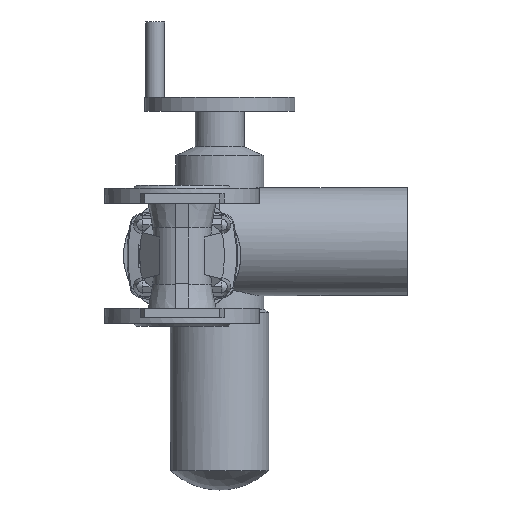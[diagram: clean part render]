
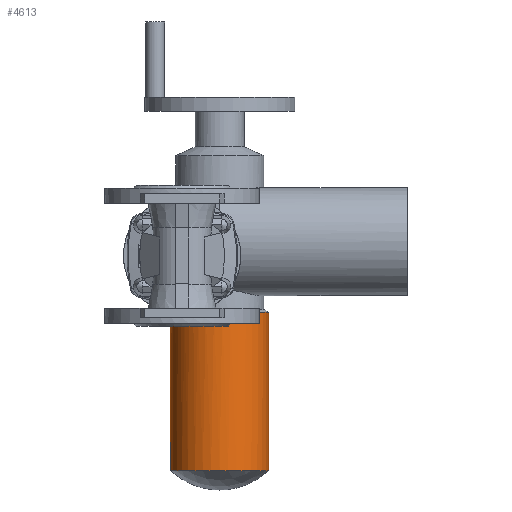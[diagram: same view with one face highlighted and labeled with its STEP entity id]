
A CAD part, front view. The second image highlights one B-rep face of the part: STEP entity #4613.
In plain terms, the highlighted cylindrical face has radius 52.5 mm (diameter 105 mm), a full revolution.
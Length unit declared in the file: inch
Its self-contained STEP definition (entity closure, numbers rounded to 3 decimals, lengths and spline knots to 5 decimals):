
#263 = EDGE_LOOP ( 'NONE', ( #8693 ) ) ;
#344 = B_SPLINE_CURVE_WITH_KNOTS ( 'NONE', 3,
 ( #1230, #1229, #1211, #1231, #1232, #1233, #1234, #1235, #1236, #1237, #1238, #1239, #1240, #1241, #1242, #1243, #1244, #1245, #1246, #1247, #1248, #1249, #1250, #1251, #1252, #1253, #1254, #1255, #1256, #1257, #1258, #1259, #1260, #1261, #1262, #1263, #1264, #1265, #1266, #1267, #1268, #1269, #1270, #1271, #1272, #1273, #1274, #1275, #1276, #1277 ),
 .UNSPECIFIED., .F., .F.,
 ( 4, 2, 2, 2, 2, 2, 2, 2, 2, 2, 2, 2, 2, 2, 2, 2, 2, 2, 2, 2, 2, 2, 2, 2, 4 ),
 ( 0.13161, 0.13526, 0.13891, 0.14621, 0.14987, 0.15352, 0.16082, 0.16447, 0.16812, 0.17543, 0.17908, 0.1809, 0.18273, 0.19003, 0.19734, 0.20464, 0.21194, 0.21377, 0.2156, 0.21925, 0.22655, 0.2302, 0.23385, 0.24116, 0.24846 ),
 .UNSPECIFIED. ) ;
#1211 = CARTESIAN_POINT ( 'NONE',  ( 0.58486, 9.77942, -2.39049 ) ) ;
#1214 = CARTESIAN_POINT ( 'NONE',  ( 1.5748, 11.59449, -9.01387 ) ) ;
#1215 = DIRECTION ( 'NONE',  ( 0., 0., 1. ) ) ;
#1216 = DIRECTION ( 'NONE',  ( 1., 0., 0. ) ) ;
#1229 = CARTESIAN_POINT ( 'NONE',  ( 0.62708, 9.75704, -2.37979 ) ) ;
#1230 = CARTESIAN_POINT ( 'NONE',  ( 0.66926, 9.73648, -2.36787 ) ) ;
#1231 = CARTESIAN_POINT ( 'NONE',  ( 0.5023, 9.82695, -2.40919 ) ) ;
#1232 = CARTESIAN_POINT ( 'NONE',  ( 0.46185, 9.85213, -2.41723 ) ) ;
#1233 = CARTESIAN_POINT ( 'NONE',  ( 0.34306, 9.93193, -2.43792 ) ) ;
#1234 = CARTESIAN_POINT ( 'NONE',  ( 0.26727, 9.99076, -2.44714 ) ) ;
#1235 = CARTESIAN_POINT ( 'NONE',  ( 0.15912, 10.08771, -2.45575 ) ) ;
#1236 = CARTESIAN_POINT ( 'NONE',  ( 0.1239, 10.12159, -2.45774 ) ) ;
#1237 = CARTESIAN_POINT ( 'NONE',  ( 0.05644, 10.19124, -2.46021 ) ) ;
#1238 = CARTESIAN_POINT ( 'NONE',  ( 0.02406, 10.22711, -2.46071 ) ) ;
#1239 = CARTESIAN_POINT ( 'NONE',  ( -0.06907, 10.33783, -2.46044 ) ) ;
#1240 = CARTESIAN_POINT ( 'NONE',  ( -0.12584, 10.41577, -2.45795 ) ) ;
#1241 = CARTESIAN_POINT ( 'NONE',  ( -0.20293, 10.53893, -2.45238 ) ) ;
#1242 = CARTESIAN_POINT ( 'NONE',  ( -0.22735, 10.58119, -2.45021 ) ) ;
#1243 = CARTESIAN_POINT ( 'NONE',  ( -0.27285, 10.66674, -2.44556 ) ) ;
#1244 = CARTESIAN_POINT ( 'NONE',  ( -0.29399, 10.71011, -2.44308 ) ) ;
#1245 = CARTESIAN_POINT ( 'NONE',  ( -0.35268, 10.84199, -2.43554 ) ) ;
#1246 = CARTESIAN_POINT ( 'NONE',  ( -0.38554, 10.93226, -2.43039 ) ) ;
#1247 = CARTESIAN_POINT ( 'NONE',  ( -0.42538, 11.07123, -2.42362 ) ) ;
#1248 = CARTESIAN_POINT ( 'NONE',  ( -0.43708, 11.11816, -2.42152 ) ) ;
#1249 = CARTESIAN_POINT ( 'NONE',  ( -0.4522, 11.18948, -2.41873 ) ) ;
#1250 = CARTESIAN_POINT ( 'NONE',  ( -0.45684, 11.2134, -2.41785 ) ) ;
#1251 = CARTESIAN_POINT ( 'NONE',  ( -0.46522, 11.26118, -2.41626 ) ) ;
#1252 = CARTESIAN_POINT ( 'NONE',  ( -0.46898, 11.28509, -2.41553 ) ) ;
#1253 = CARTESIAN_POINT ( 'NONE',  ( -0.48566, 11.40467, -2.41227 ) ) ;
#1254 = CARTESIAN_POINT ( 'NONE',  ( -0.49222, 11.50053, -2.4109 ) ) ;
#1255 = CARTESIAN_POINT ( 'NONE',  ( -0.49203, 11.69265, -2.41094 ) ) ;
#1256 = CARTESIAN_POINT ( 'NONE',  ( -0.48526, 11.78894, -2.41235 ) ) ;
#1257 = CARTESIAN_POINT ( 'NONE',  ( -0.45785, 11.98181, -2.4177 ) ) ;
#1258 = CARTESIAN_POINT ( 'NONE',  ( -0.43753, 12.0761, -2.42157 ) ) ;
#1259 = CARTESIAN_POINT ( 'NONE',  ( -0.3842, 12.26061, -2.4306 ) ) ;
#1260 = CARTESIAN_POINT ( 'NONE',  ( -0.35119, 12.35084, -2.43576 ) ) ;
#1261 = CARTESIAN_POINT ( 'NONE',  ( -0.30185, 12.46107, -2.44207 ) ) ;
#1262 = CARTESIAN_POINT ( 'NONE',  ( -0.29157, 12.48299, -2.44332 ) ) ;
#1263 = CARTESIAN_POINT ( 'NONE',  ( -0.2702, 12.52656, -2.44577 ) ) ;
#1264 = CARTESIAN_POINT ( 'NONE',  ( -0.25908, 12.54824, -2.44698 ) ) ;
#1265 = CARTESIAN_POINT ( 'NONE',  ( -0.22475, 12.6124, -2.45045 ) ) ;
#1266 = CARTESIAN_POINT ( 'NONE',  ( -0.20049, 12.65414, -2.45258 ) ) ;
#1267 = CARTESIAN_POINT ( 'NONE',  ( -0.12362, 12.77636, -2.45806 ) ) ;
#1268 = CARTESIAN_POINT ( 'NONE',  ( -0.06698, 12.85385, -2.4605 ) ) ;
#1269 = CARTESIAN_POINT ( 'NONE',  ( 0.02606, 12.96412, -2.46069 ) ) ;
#1270 = CARTESIAN_POINT ( 'NONE',  ( 0.05842, 12.99988, -2.46017 ) ) ;
#1271 = CARTESIAN_POINT ( 'NONE',  ( 0.12592, 13.06937, -2.45764 ) ) ;
#1272 = CARTESIAN_POINT ( 'NONE',  ( 0.16121, 13.10323, -2.45561 ) ) ;
#1273 = CARTESIAN_POINT ( 'NONE',  ( 0.26942, 13.19996, -2.44691 ) ) ;
#1274 = CARTESIAN_POINT ( 'NONE',  ( 0.34504, 13.25848, -2.43763 ) ) ;
#1275 = CARTESIAN_POINT ( 'NONE',  ( 0.50254, 13.36408, -2.41009 ) ) ;
#1276 = CARTESIAN_POINT ( 'NONE',  ( 0.58444, 13.41115, -2.39184 ) ) ;
#1277 = CARTESIAN_POINT ( 'NONE',  ( 0.66926, 13.45249, -2.36787 ) ) ;
#1773 = AXIS2_PLACEMENT_3D ( 'NONE', #3424, #3425, #3426 ) ;
#2474 = CIRCLE ( 'NONE', #1773, 2.06693 ) ;
#2895 = VERTEX_POINT ( 'NONE', #7649 ) ;
#3424 = CARTESIAN_POINT ( 'NONE',  ( 1.5748, 11.59449, -2.36787 ) ) ;
#3425 = DIRECTION ( 'NONE',  ( 0., 0., 1. ) ) ;
#3426 = DIRECTION ( 'NONE',  ( 1., 0., 0. ) ) ;
#4126 = EDGE_CURVE ( 'NONE', #2895, #2895, #9203, .T. ) ;
#4130 = EDGE_CURVE ( 'NONE', #8849, #8800, #344, .T. ) ;
#4613 = ADVANCED_FACE ( 'NONE', ( #9315, #9319 ), #9326, .T. ) ;
#5808 = CARTESIAN_POINT ( 'NONE',  ( 0.66926, 13.45249, -2.36787 ) ) ;
#5897 = CARTESIAN_POINT ( 'NONE',  ( 0.66926, 9.73648, -2.36787 ) ) ;
#6280 = EDGE_CURVE ( 'NONE', #8849, #8800, #2474, .T. ) ;
#7649 = CARTESIAN_POINT ( 'NONE',  ( 3.64173, 11.59449, -9.01387 ) ) ;
#7922 = EDGE_LOOP ( 'NONE', ( #8692, #8691 ) ) ;
#8268 = DIRECTION ( 'NONE',  ( 1., 0., 0. ) ) ;
#8269 = CARTESIAN_POINT ( 'NONE',  ( 1.5748, 11.59449, 0.59055 ) ) ;
#8270 = DIRECTION ( 'NONE',  ( 0., 0., 1. ) ) ;
#8691 = ORIENTED_EDGE ( 'NONE', *, *, #4130, .T. ) ;
#8692 = ORIENTED_EDGE ( 'NONE', *, *, #6280, .F. ) ;
#8693 = ORIENTED_EDGE ( 'NONE', *, *, #4126, .T. ) ;
#8800 = VERTEX_POINT ( 'NONE', #5808 ) ;
#8849 = VERTEX_POINT ( 'NONE', #5897 ) ;
#9203 = CIRCLE ( 'NONE', #9885, 2.06693 ) ;
#9315 = FACE_OUTER_BOUND ( 'NONE', #263, .T. ) ;
#9319 = FACE_OUTER_BOUND ( 'NONE', #7922, .T. ) ;
#9326 = CYLINDRICAL_SURFACE ( 'NONE', #9940, 2.06693 ) ;
#9885 = AXIS2_PLACEMENT_3D ( 'NONE', #1214, #1215, #1216 ) ;
#9940 = AXIS2_PLACEMENT_3D ( 'NONE', #8269, #8270, #8268 ) ;
